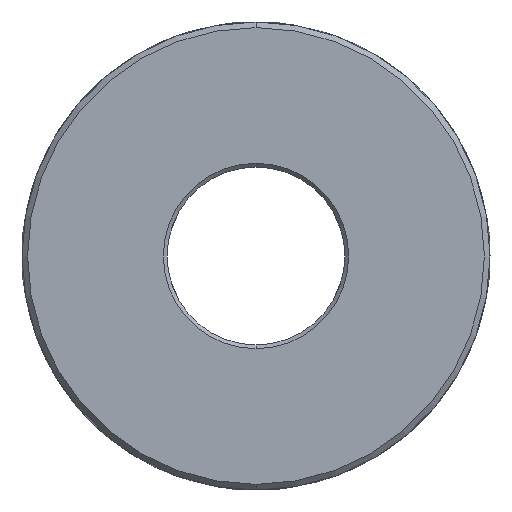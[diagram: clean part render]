
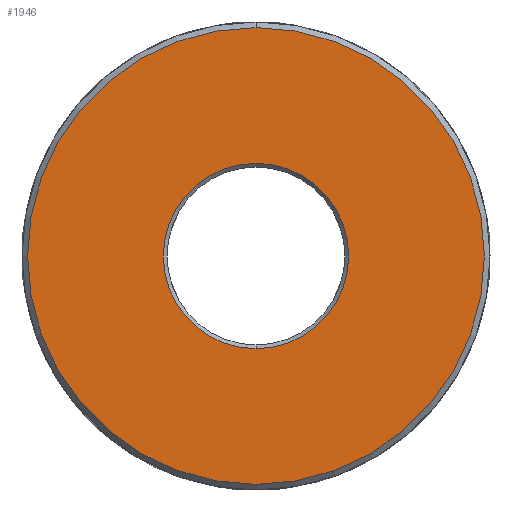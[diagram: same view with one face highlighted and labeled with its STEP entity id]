
A CAD part, front view. The second image highlights one B-rep face of the part: STEP entity #1946.
In plain terms, the highlighted planar face has unit normal (0, -1, 0).
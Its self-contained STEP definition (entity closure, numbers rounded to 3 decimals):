
#36 = DIRECTION ( 'NONE',  ( 0., -1., 0. ) ) ;
#160 = CARTESIAN_POINT ( 'NONE',  ( 0., 0., 0. ) ) ;
#622 = VERTEX_POINT ( 'NONE', #4083 ) ;
#1090 = VERTEX_POINT ( 'NONE', #1811 ) ;
#1120 = DIRECTION ( 'NONE',  ( 0., 1., 0. ) ) ;
#1211 = EDGE_CURVE ( 'NONE', #2086, #1880, #3271, .T. ) ;
#1469 = CIRCLE ( 'NONE', #5237, 9.9 ) ;
#1494 = ORIENTED_EDGE ( 'NONE', *, *, #2706, .T. ) ;
#1621 = EDGE_LOOP ( 'NONE', ( #6674, #4603 ) ) ;
#1811 = CARTESIAN_POINT ( 'NONE',  ( 0., 0., -24.4 ) ) ;
#1816 = CARTESIAN_POINT ( 'NONE',  ( 0., 0., 9.9 ) ) ;
#1836 = ORIENTED_EDGE ( 'NONE', *, *, #5209, .T. ) ;
#1880 = VERTEX_POINT ( 'NONE', #1816 ) ;
#1946 = ADVANCED_FACE ( 'NONE', ( #5989, #7182 ), #7015, .F. ) ;
#1996 = AXIS2_PLACEMENT_3D ( 'NONE', #4620, #36, #6994 ) ;
#2086 = VERTEX_POINT ( 'NONE', #4903 ) ;
#2447 = AXIS2_PLACEMENT_3D ( 'NONE', #3544, #1120, #7113 ) ;
#2548 = DIRECTION ( 'NONE',  ( 0., 0., 1. ) ) ;
#2706 = EDGE_CURVE ( 'NONE', #1090, #622, #3254, .T. ) ;
#3254 = CIRCLE ( 'NONE', #7478, 24.4 ) ;
#3260 = DIRECTION ( 'NONE',  ( 0., 0., 1. ) ) ;
#3271 = CIRCLE ( 'NONE', #6237, 9.9 ) ;
#3544 = CARTESIAN_POINT ( 'NONE',  ( -50., 0., 32.858 ) ) ;
#4083 = CARTESIAN_POINT ( 'NONE',  ( 0., 0., 24.4 ) ) ;
#4603 = ORIENTED_EDGE ( 'NONE', *, *, #7010, .T. ) ;
#4614 = DIRECTION ( 'NONE',  ( 0., 1., 0. ) ) ;
#4620 = CARTESIAN_POINT ( 'NONE',  ( 0., 0., 0. ) ) ;
#4903 = CARTESIAN_POINT ( 'NONE',  ( 0., 0., -9.9 ) ) ;
#5209 = EDGE_CURVE ( 'NONE', #622, #1090, #5486, .T. ) ;
#5237 = AXIS2_PLACEMENT_3D ( 'NONE', #7528, #4614, #6277 ) ;
#5486 = CIRCLE ( 'NONE', #1996, 24.4 ) ;
#5989 = FACE_BOUND ( 'NONE', #1621, .T. ) ;
#6039 = CARTESIAN_POINT ( 'NONE',  ( 0., 0., 0. ) ) ;
#6237 = AXIS2_PLACEMENT_3D ( 'NONE', #160, #6722, #3260 ) ;
#6277 = DIRECTION ( 'NONE',  ( 0., 0., 1. ) ) ;
#6569 = DIRECTION ( 'NONE',  ( 0., -1., 0. ) ) ;
#6674 = ORIENTED_EDGE ( 'NONE', *, *, #1211, .T. ) ;
#6722 = DIRECTION ( 'NONE',  ( 0., 1., 0. ) ) ;
#6926 = EDGE_LOOP ( 'NONE', ( #1836, #1494 ) ) ;
#6994 = DIRECTION ( 'NONE',  ( 0., 0., 1. ) ) ;
#7010 = EDGE_CURVE ( 'NONE', #1880, #2086, #1469, .T. ) ;
#7015 = PLANE ( 'NONE',  #2447 ) ;
#7113 = DIRECTION ( 'NONE',  ( 0., 0., 1. ) ) ;
#7182 = FACE_OUTER_BOUND ( 'NONE', #6926, .T. ) ;
#7478 = AXIS2_PLACEMENT_3D ( 'NONE', #6039, #6569, #2548 ) ;
#7528 = CARTESIAN_POINT ( 'NONE',  ( 0., 0., 0. ) ) ;
